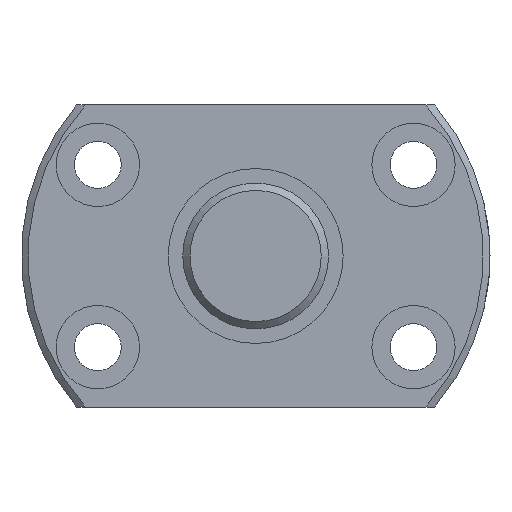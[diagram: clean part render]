
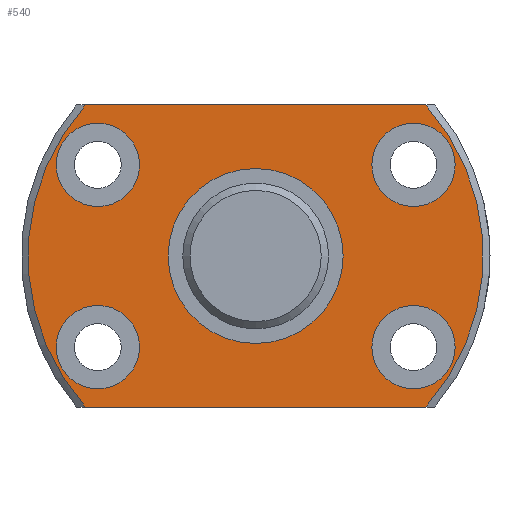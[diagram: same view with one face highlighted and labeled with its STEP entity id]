
A CAD part, left-side view. The second image highlights one B-rep face of the part: STEP entity #540.
In plain terms, the highlighted planar face has unit normal (-1, 0, 0).
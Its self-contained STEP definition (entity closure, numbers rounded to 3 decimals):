
#28=LINE('',#893,#36);
#29=LINE('',#898,#37);
#36=VECTOR('',#721,1000.);
#37=VECTOR('',#724,1000.);
#91=ORIENTED_EDGE('',*,*,#207,.T.);
#92=ORIENTED_EDGE('',*,*,#208,.T.);
#93=ORIENTED_EDGE('',*,*,#209,.T.);
#94=ORIENTED_EDGE('',*,*,#210,.T.);
#95=ORIENTED_EDGE('',*,*,#211,.T.);
#96=ORIENTED_EDGE('',*,*,#212,.F.);
#97=ORIENTED_EDGE('',*,*,#213,.T.);
#98=ORIENTED_EDGE('',*,*,#214,.F.);
#99=ORIENTED_EDGE('',*,*,#215,.T.);
#207=EDGE_CURVE('',#267,#267,#319,.T.);
#208=EDGE_CURVE('',#268,#268,#320,.T.);
#209=EDGE_CURVE('',#269,#269,#321,.T.);
#210=EDGE_CURVE('',#270,#270,#322,.T.);
#211=EDGE_CURVE('',#271,#271,#323,.T.);
#212=EDGE_CURVE('',#272,#273,#28,.T.);
#213=EDGE_CURVE('',#272,#274,#324,.F.);
#214=EDGE_CURVE('',#275,#274,#29,.T.);
#215=EDGE_CURVE('',#275,#273,#325,.F.);
#267=VERTEX_POINT('',#884);
#268=VERTEX_POINT('',#886);
#269=VERTEX_POINT('',#888);
#270=VERTEX_POINT('',#890);
#271=VERTEX_POINT('',#892);
#272=VERTEX_POINT('',#894);
#273=VERTEX_POINT('',#895);
#274=VERTEX_POINT('',#897);
#275=VERTEX_POINT('',#899);
#319=CIRCLE('',#613,8.4);
#320=CIRCLE('',#614,4.);
#321=CIRCLE('',#615,4.);
#322=CIRCLE('',#616,4.);
#323=CIRCLE('',#617,4.);
#324=CIRCLE('',#618,21.85);
#325=CIRCLE('',#619,21.85);
#365=EDGE_LOOP('',(#91));
#366=EDGE_LOOP('',(#92));
#367=EDGE_LOOP('',(#93));
#368=EDGE_LOOP('',(#94));
#369=EDGE_LOOP('',(#95));
#370=EDGE_LOOP('',(#96,#97,#98,#99));
#447=FACE_BOUND('',#365,.T.);
#448=FACE_BOUND('',#366,.T.);
#449=FACE_BOUND('',#367,.T.);
#450=FACE_BOUND('',#368,.T.);
#451=FACE_BOUND('',#369,.T.);
#452=FACE_BOUND('',#370,.T.);
#523=PLANE('',#612);
#540=ADVANCED_FACE('',(#447,#448,#449,#450,#451,#452),#523,.F.);
#612=AXIS2_PLACEMENT_3D('',#882,#709,#710);
#613=AXIS2_PLACEMENT_3D('',#883,#711,#712);
#614=AXIS2_PLACEMENT_3D('',#885,#713,#714);
#615=AXIS2_PLACEMENT_3D('',#887,#715,#716);
#616=AXIS2_PLACEMENT_3D('',#889,#717,#718);
#617=AXIS2_PLACEMENT_3D('',#891,#719,#720);
#618=AXIS2_PLACEMENT_3D('',#896,#722,#723);
#619=AXIS2_PLACEMENT_3D('',#900,#725,#726);
#709=DIRECTION('',(1.,0.,0.));
#710=DIRECTION('',(0.,0.,-1.));
#711=DIRECTION('',(1.,0.,0.));
#712=DIRECTION('',(0.,0.,-1.));
#713=DIRECTION('',(1.,0.,0.));
#714=DIRECTION('',(0.,0.,-1.));
#715=DIRECTION('',(1.,0.,0.));
#716=DIRECTION('',(0.,0.,-1.));
#717=DIRECTION('',(1.,0.,0.));
#718=DIRECTION('',(0.,0.,-1.));
#719=DIRECTION('',(1.,0.,0.));
#720=DIRECTION('',(0.,0.,-1.));
#721=DIRECTION('',(0.,1.,0.));
#722=DIRECTION('',(1.,0.,0.));
#723=DIRECTION('',(0.,0.,-1.));
#724=DIRECTION('',(0.,-1.,0.));
#725=DIRECTION('',(1.,0.,0.));
#726=DIRECTION('',(0.,0.,-1.));
#882=CARTESIAN_POINT('',(0.,0.,0.));
#883=CARTESIAN_POINT('',(0.,0.,0.));
#884=CARTESIAN_POINT('',(0.,0.,-8.4));
#885=CARTESIAN_POINT('',(0.,15.155,-8.75));
#886=CARTESIAN_POINT('',(0.,15.155,-12.75));
#887=CARTESIAN_POINT('',(0.,-15.155,8.75));
#888=CARTESIAN_POINT('',(0.,-15.155,4.75));
#889=CARTESIAN_POINT('',(0.,-15.155,-8.75));
#890=CARTESIAN_POINT('',(0.,-15.155,-12.75));
#891=CARTESIAN_POINT('',(0.,15.155,8.75));
#892=CARTESIAN_POINT('',(0.,15.155,4.75));
#893=CARTESIAN_POINT('',(0.,-17.205,-14.5));
#894=CARTESIAN_POINT('',(0.,-16.345,-14.5));
#895=CARTESIAN_POINT('',(0.,16.345,-14.5));
#896=CARTESIAN_POINT('',(0.,0.,0.));
#897=CARTESIAN_POINT('',(0.,-16.345,14.5));
#898=CARTESIAN_POINT('',(0.,17.205,14.5));
#899=CARTESIAN_POINT('',(0.,16.345,14.5));
#900=CARTESIAN_POINT('',(0.,0.,0.));
